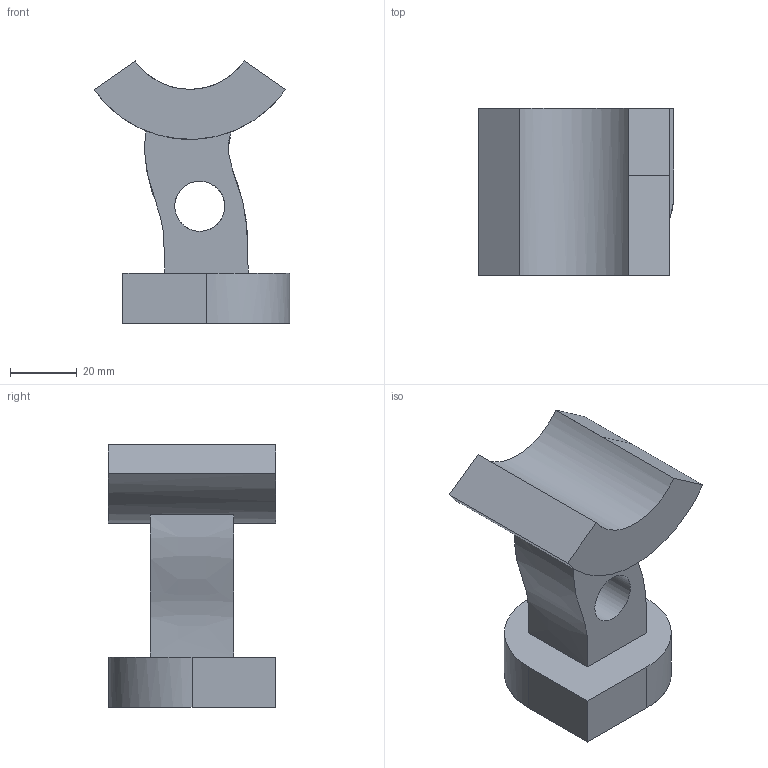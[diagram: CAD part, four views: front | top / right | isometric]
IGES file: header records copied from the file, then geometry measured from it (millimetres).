
Global section: file name: B_Ex_10_4; native system: AutoCAD 2016 - Español (Spanish),; preprocessor: Autodesk Translation Framework DWG producer (atf_dwg_producer); organization: unknown; date: 20200412.010234; units: millimetre
Bounding box: 58.67 x 50 x 78.53 mm (x, y, z)
Volume: 94628.9 mm3; surface area: 25661.9 mm2
Topology: 3 solids, 3 shells, 25 faces, 63 edges, 48 vertices
Faces by surface type: bspline 25
